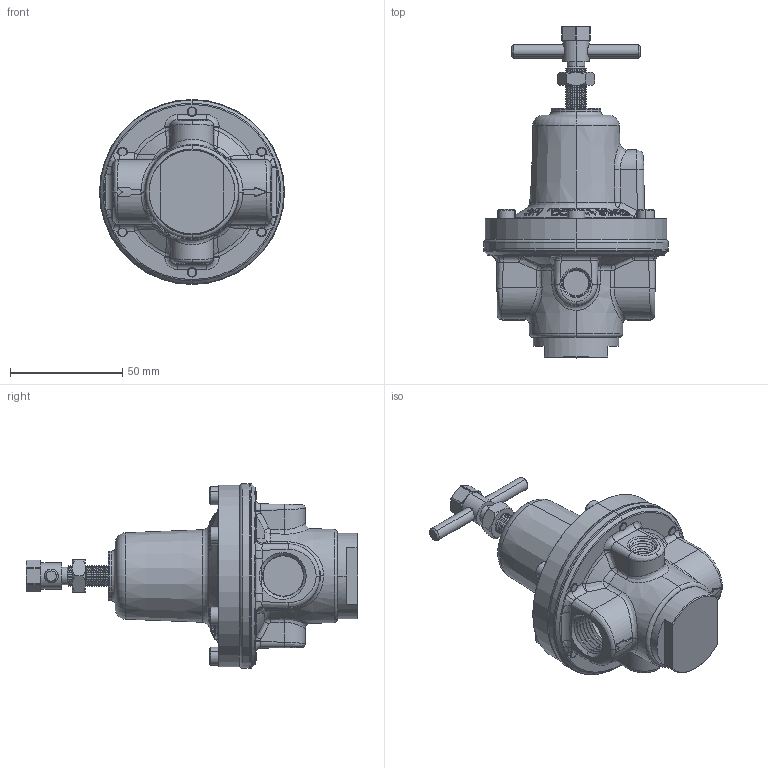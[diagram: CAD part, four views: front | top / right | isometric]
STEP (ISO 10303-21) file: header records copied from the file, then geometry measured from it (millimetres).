
FILE_DESCRIPTION (( 'STEP AP203' ), '1' );
FILE_NAME ('4GDR-500B.STEP', '2013-03-14T12:00:03', ( '' ), ( '' ), 'SwSTEP 2.0', 'SolidWorks 2011', '' );
FILE_SCHEMA (( 'CONFIG_CONTROL_DESIGN' ));
Length unit declared in the file: inch
Products named in the file (3): 4GDR-500B; Part1^4GDR-500B_CM; Part2^4GDR-500B_CM
Assembly tree (1 placements, depth 2):
  4GDR-500B
    Part1^4GDR-500B_CM
  Part2^4GDR-500B_CM
Bounding box: 82.3 x 147.64 x 82.3 mm (x, y, z)
Volume: 237832 mm3; surface area: 36491 mm2
Topology: 1 solids, 6 shells, 1147 faces, 2656 edges, 1551 vertices
Faces by surface type: cone 397, plane 315, bspline 222, cylinder 167, torus 33, sphere 13
Entity records: 41935 total; most frequent: CARTESIAN_POINT 17954, ORIENTED_EDGE 5278, DIRECTION 4389, EDGE_CURVE 2639, AXIS2_PLACEMENT_3D 1718, VERTEX_POINT 1551, EDGE_LOOP 1204, FACE_OUTER_BOUND 1147
